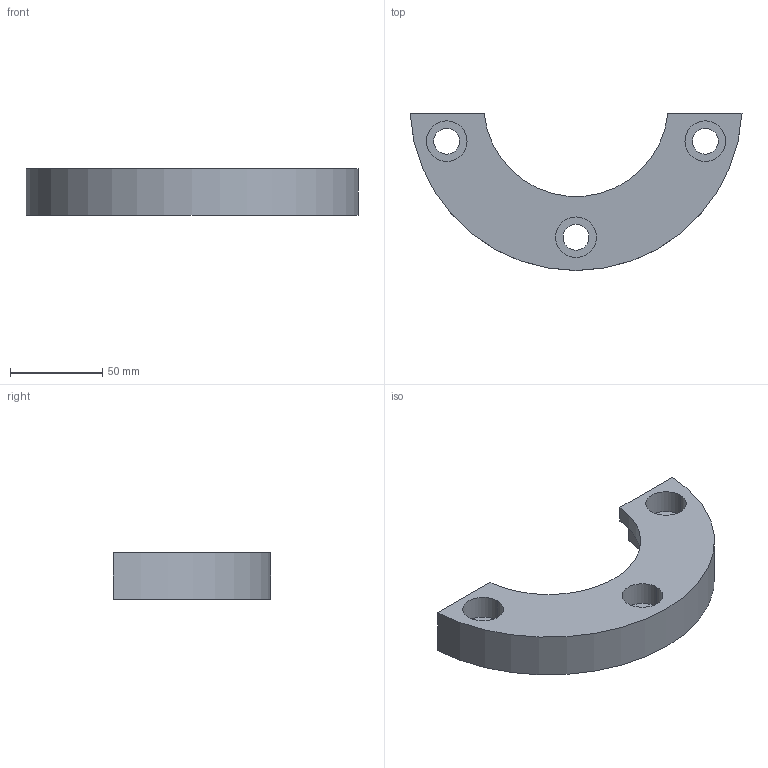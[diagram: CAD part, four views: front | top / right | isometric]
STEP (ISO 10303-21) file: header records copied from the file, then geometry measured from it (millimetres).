
FILE_DESCRIPTION (( 'STEP AP214' ), '1' );
FILE_NAME ('D30.03.01_80.step', '2011-12-17T15:33:54', ( 'Dell' ), ( '' ), 'SwSTEP 2.0', 'SolidWorks 2010', '' );
FILE_SCHEMA (( 'AUTOMOTIVE_DESIGN' ));
Length unit declared in the file: metre
Products named in the file (1): D30.03.01_80
Bounding box: 179.72 x 85 x 25 mm (x, y, z)
Volume: 173178.7 mm3; surface area: 32765.9 mm2
Topology: 1 solids, 1 shells, 23 faces, 54 edges, 36 vertices
Faces by surface type: cylinder 15, plane 8
Entity records: 724 total; most frequent: DIRECTION 132, CARTESIAN_POINT 114, ORIENTED_EDGE 108, EDGE_CURVE 54, AXIS2_PLACEMENT_3D 54, VERTEX_POINT 36, EDGE_LOOP 32, CIRCLE 30
